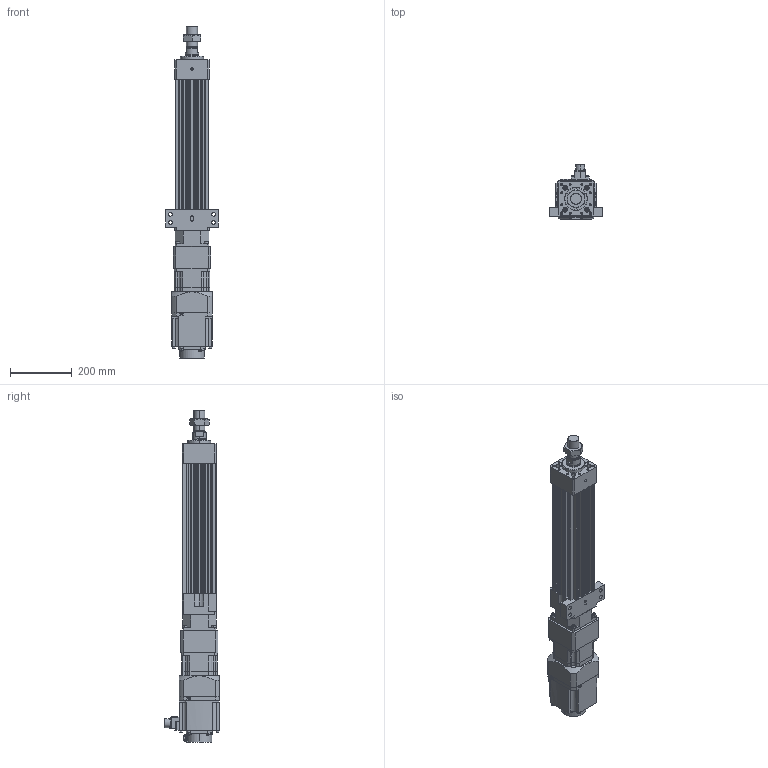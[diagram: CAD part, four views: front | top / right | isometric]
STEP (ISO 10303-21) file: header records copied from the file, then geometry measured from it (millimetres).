
FILE_DESCRIPTION (( 'STEP AP203' ), '1' );
FILE_NAME ('HES110NS(HS)-S250-W015G00-M-FFC.STEP', '2023-01-28T04:50:41', ( 'tms' ), ( '' ), 'SwSTEP 2.0', 'SolidWorks 2013', '' );
FILE_SCHEMA (( 'CONFIG_CONTROL_DESIGN' ));
Length unit declared in the file: millimetre
Products named in the file (8): P0401400706; M36X1.5P; AB1151; HES110 ROD M ST250; HES110NS(HS)-S250-W015G00-M-FFC; HES110-S250-G120-FFC; HG-SR152; AB115-003[HG-SR152]
Assembly tree (7 placements, depth 3):
  HES110NS(HS)-S250-W015G00-M-FFC
    HES110-S250-G120-FFC
    HES110 ROD M ST250
    M36X1.5P
    AB115-003[HG-SR152]
      AB1151
      P0401400706
    HG-SR152
Bounding box: 170 x 177.49 x 1071.5 mm (x, y, z)
Volume: 6925640.5 mm3; surface area: 945330.9 mm2
Topology: 4 solids, 15 shells, 1222 faces, 3083 edges, 1988 vertices
Faces by surface type: plane 557, cylinder 549, cone 104, bspline 8, torus 4
Entity records: 38313 total; most frequent: CARTESIAN_POINT 7246, DIRECTION 6648, ORIENTED_EDGE 6070, EDGE_CURVE 3045, AXIS2_PLACEMENT_3D 2450, VERTEX_POINT 1988, VECTOR 1748, LINE 1748
